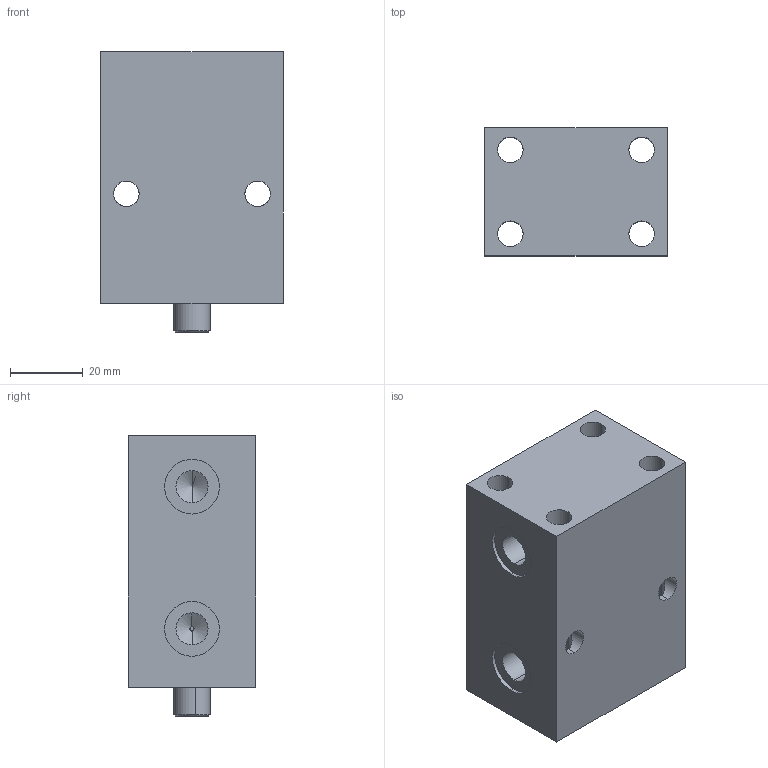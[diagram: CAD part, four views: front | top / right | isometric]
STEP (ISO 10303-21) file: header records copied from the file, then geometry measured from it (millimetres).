
FILE_DESCRIPTION (( 'STEP AP203' ), '1' );
FILE_NAME ('Block cylinder B01C-0025F.STEP', '2022-07-09T18:23:20', ( '' ), ( '' ), 'SwSTEP 2.0', 'SolidWorks 2017', '' );
FILE_SCHEMA (( 'CONFIG_CONTROL_DESIGN' ));
Length unit declared in the file: millimetre
Products named in the file (3): Block cylinder B01C-0025F; Body_0025F; Piston_0025F
Assembly tree (2 placements, depth 2):
  Block cylinder B01C-0025F
    Body_0025F
    Piston_0025F
Bounding box: 50 x 35 x 77 mm (x, y, z)
Volume: 105212.3 mm3; surface area: 26322.7 mm2
Topology: 2 solids, 2 shells, 360 faces, 983 edges, 642 vertices
Faces by surface type: bspline 171, plane 137, cylinder 44, cone 8
Entity records: 18578 total; most frequent: CARTESIAN_POINT 10387, ORIENTED_EDGE 1958, DIRECTION 1049, EDGE_CURVE 979, VERTEX_POINT 642, VECTOR 545, LINE 545, EDGE_LOOP 401
